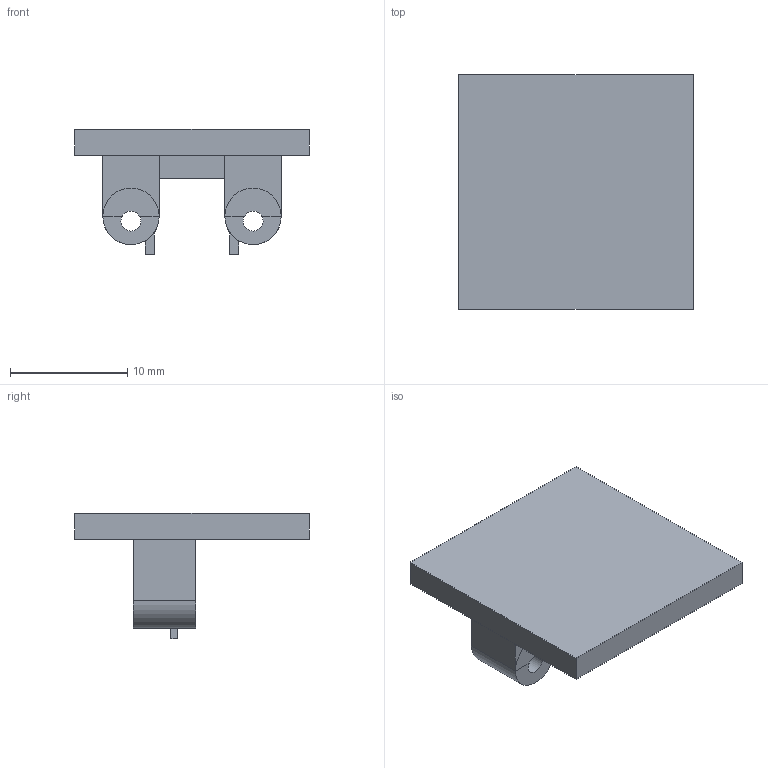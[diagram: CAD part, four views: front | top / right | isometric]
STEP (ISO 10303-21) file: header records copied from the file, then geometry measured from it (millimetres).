
FILE_DESCRIPTION(('Open CASCADE Model'),'2;1');
FILE_NAME('QF01_ADAPTER_CRADLE_AND_GROMMET_TEST_BASE', '2026-09-15T14:22:29',('Author'),('Open CASCADE'), 'Open CASCADE STEP processor 7.9','build123d','Unknown');
FILE_SCHEMA(('AUTOMOTIVE_DESIGN { 1 0 10303 214 1 1 1 1 }'));
Length unit declared in the file: millimetre
Products named in the file (1): QF01_ADAPTER_CRADLE_AND_GROMMET_TEST_BASE
Bounding box: 20 x 20 x 10.65 mm (x, y, z)
Volume: 1243.7 mm3; surface area: 1318.2 mm2
Topology: 1 solids, 1 shells, 45 faces, 124 edges, 80 vertices
Faces by surface type: plane 41, cylinder 4
Full cylindrical faces by diameter (mm): 1.7 x2
Entity records: 3030 total; most frequent: CARTESIAN_POINT 522, DIRECTION 470, LINE 280, VECTOR 280, ORIENTED_EDGE 248, PCURVE 248, DEFINITIONAL_REPRESENTATION 248, EDGE_CURVE 124
